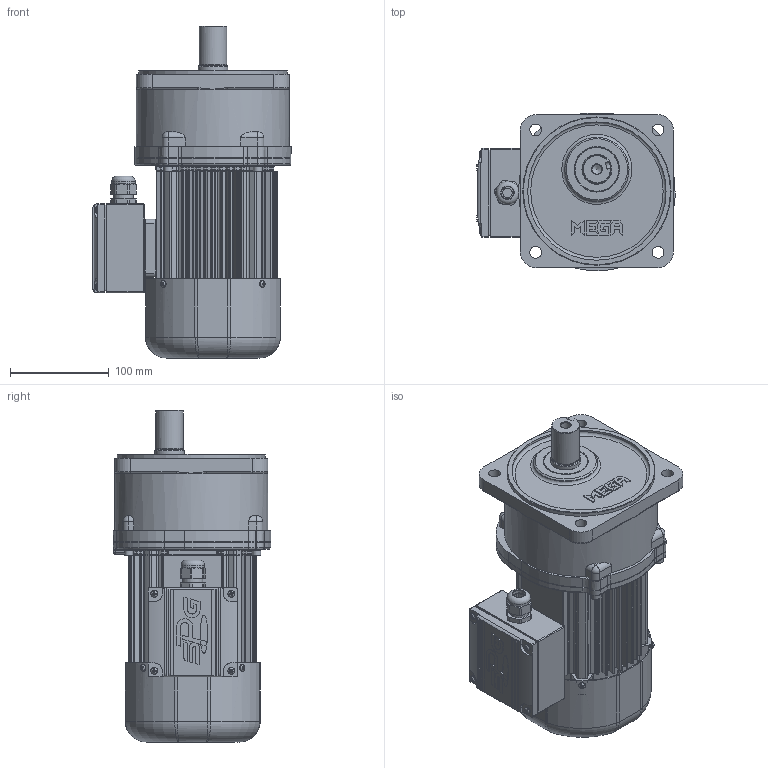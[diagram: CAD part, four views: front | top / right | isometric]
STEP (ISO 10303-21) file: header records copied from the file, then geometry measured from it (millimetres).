
FILE_DESCRIPTION(/* description */ (''),/* implementation_level */ '2;1');
FILE_NAME(/* name */ 'Z:\동력 3D 파일\PMK105_0.2kW_Brake_3D.stp',/* time_stamp */ '2021-11-18T16:02:47+09:00',/* author */ ('jaebok'),/* organization */ (''),/* preprocessor_version */ 'ST-DEVELOPER v18.1',/* originating_system */ 'Autodesk Inventor 2022',/* authorisation */ '');
FILE_SCHEMA (('AUTOMOTIVE_DESIGN { 1 0 10303 214 3 1 1 }'));
Products named in the file (1): 부품6
Bounding box: 200.7 x 159.49 x 336 mm (x, y, z)
Volume: 1723524.3 mm3; surface area: 582912.7 mm2
Topology: 2 solids, 33 shells, 3180 faces, 8016 edges, 4842 vertices
Faces by surface type: plane 1115, cylinder 918, bspline 631, torus 256, cone 194, sphere 66
Full cylindrical faces by diameter (mm): 1.5 x2, 2 x5, 3 x4, 3.242 x4, 3.25 x1, 3.3 x8, 3.6 x4, 3.8 x3, 4 x21, 4.134 x4, 4.2 x12, 5 x33, 5.5 x4, 5.8 x2, 5.9 x3, 6 x14, 6.4 x1, 6.5 x6, 7 x12, 7.9 x6, 8 x8, 8.5 x5, 8.7 x1, 10 x2, 12 x4, 12.5 x1, 15 x1, 16 x1, 16.2 x1, 19 x1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
Entity records: 124219 total; most frequent: CARTESIAN_POINT 48747, ORIENTED_EDGE 15610, DIRECTION 14424, EDGE_CURVE 7805, AXIS2_PLACEMENT_3D 5719, VERTEX_POINT 4836, EDGE_LOOP 3465, FACE_OUTER_BOUND 3180
